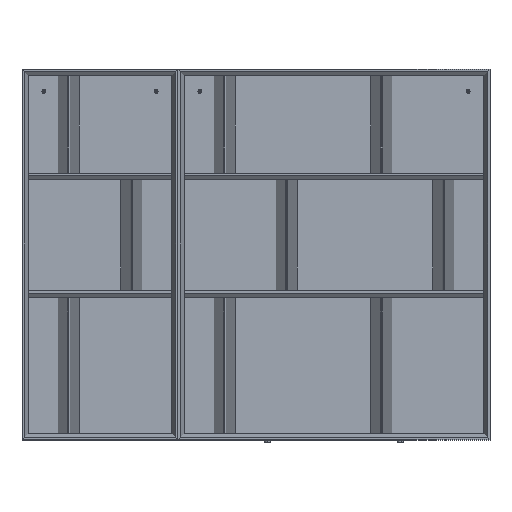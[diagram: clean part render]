
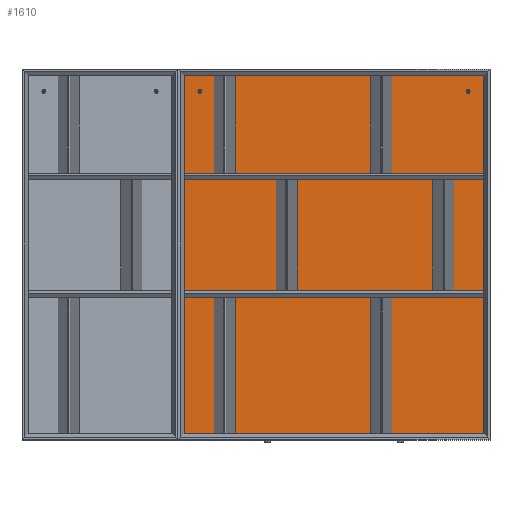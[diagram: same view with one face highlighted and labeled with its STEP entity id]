
A CAD part, top view. The second image highlights one B-rep face of the part: STEP entity #1610.
In plain terms, the highlighted planar face has unit normal (0, 0, 1).
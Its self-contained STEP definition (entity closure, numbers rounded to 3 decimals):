
#283 = LINE ( 'NONE', #2585, #4656 ) ;
#1060 = CARTESIAN_POINT ( 'NONE',  ( 1302.107, 16., -161. ) ) ;
#1182 = ORIENTED_EDGE ( 'NONE', *, *, #9552, .T. ) ;
#1233 = VERTEX_POINT ( 'NONE', #12076 ) ;
#1282 = CARTESIAN_POINT ( 'NONE',  ( 339., 894., -161. ) ) ;
#1532 = LINE ( 'NONE', #3897, #3592 ) ;
#1605 = ORIENTED_EDGE ( 'NONE', *, *, #9412, .F. ) ;
#1610 = ADVANCED_FACE ( 'NONE', ( #11697, #13828, #11774 ), #3686, .F. ) ;
#1723 = EDGE_CURVE ( 'NONE', #7999, #13384, #3549, .T. ) ;
#1754 = VECTOR ( 'NONE', #11072, 1000. ) ;
#1840 = DIRECTION ( 'NONE',  ( 1., 0., 0. ) ) ;
#2565 = CARTESIAN_POINT ( 'NONE',  ( -384., 16., -161. ) ) ;
#2585 = CARTESIAN_POINT ( 'NONE',  ( -384., 934., -161. ) ) ;
#2789 = DIRECTION ( 'NONE',  ( -1., 0., 0. ) ) ;
#2970 = CARTESIAN_POINT ( 'NONE',  ( 344., 894., -161. ) ) ;
#3013 = VERTEX_POINT ( 'NONE', #4748 ) ;
#3549 = CIRCLE ( 'NONE', #6408, 5. ) ;
#3592 = VECTOR ( 'NONE', #2789, 1000. ) ;
#3686 = PLANE ( 'NONE',  #9960 ) ;
#3741 = EDGE_LOOP ( 'NONE', ( #1605, #6006 ) ) ;
#3748 = ORIENTED_EDGE ( 'NONE', *, *, #11490, .F. ) ;
#3763 = CARTESIAN_POINT ( 'NONE',  ( 1302.107, 934., -161. ) ) ;
#3897 = CARTESIAN_POINT ( 'NONE',  ( 1302.107, 934., -161. ) ) ;
#4001 = DIRECTION ( 'NONE',  ( 1., 0., 0. ) ) ;
#4058 = CARTESIAN_POINT ( 'NONE',  ( 384., 934., -161. ) ) ;
#4212 = DIRECTION ( 'NONE',  ( 0., 1., 0. ) ) ;
#4417 = CIRCLE ( 'NONE', #12696, 5. ) ;
#4436 = VERTEX_POINT ( 'NONE', #8491 ) ;
#4656 = VECTOR ( 'NONE', #9121, 1000. ) ;
#4748 = CARTESIAN_POINT ( 'NONE',  ( 349., 894., -161. ) ) ;
#5273 = DIRECTION ( 'NONE',  ( 0., 0., 1. ) ) ;
#5352 = CARTESIAN_POINT ( 'NONE',  ( 344., 894., -161. ) ) ;
#5550 = VERTEX_POINT ( 'NONE', #2565 ) ;
#5944 = ORIENTED_EDGE ( 'NONE', *, *, #11769, .T. ) ;
#6006 = ORIENTED_EDGE ( 'NONE', *, *, #9236, .F. ) ;
#6408 = AXIS2_PLACEMENT_3D ( 'NONE', #6431, #8877, #1840 ) ;
#6431 = CARTESIAN_POINT ( 'NONE',  ( -344., 894., -161. ) ) ;
#6554 = LINE ( 'NONE', #1060, #1754 ) ;
#7043 = EDGE_CURVE ( 'NONE', #13384, #7999, #10761, .T. ) ;
#7369 = EDGE_LOOP ( 'NONE', ( #13411, #12230 ) ) ;
#7570 = DIRECTION ( 'NONE',  ( 1., 0., 0. ) ) ;
#7999 = VERTEX_POINT ( 'NONE', #8389 ) ;
#8297 = DIRECTION ( 'NONE',  ( -1., 0., 0. ) ) ;
#8318 = DIRECTION ( 'NONE',  ( 0., 0., 1. ) ) ;
#8389 = CARTESIAN_POINT ( 'NONE',  ( -349., 894., -161. ) ) ;
#8491 = CARTESIAN_POINT ( 'NONE',  ( -384., 934., -161. ) ) ;
#8646 = CARTESIAN_POINT ( 'NONE',  ( -344., 894., -161. ) ) ;
#8877 = DIRECTION ( 'NONE',  ( 0., 0., 1. ) ) ;
#8930 = AXIS2_PLACEMENT_3D ( 'NONE', #2970, #8318, #4001 ) ;
#9121 = DIRECTION ( 'NONE',  ( 0., -1., 0. ) ) ;
#9123 = CARTESIAN_POINT ( 'NONE',  ( -339., 894., -161. ) ) ;
#9236 = EDGE_CURVE ( 'NONE', #11116, #3013, #10578, .T. ) ;
#9412 = EDGE_CURVE ( 'NONE', #3013, #11116, #4417, .T. ) ;
#9552 = EDGE_CURVE ( 'NONE', #4436, #5550, #283, .T. ) ;
#9553 = DIRECTION ( 'NONE',  ( 0., 0., -1. ) ) ;
#9712 = LINE ( 'NONE', #4058, #11222 ) ;
#9960 = AXIS2_PLACEMENT_3D ( 'NONE', #3763, #9553, #8297 ) ;
#9981 = CARTESIAN_POINT ( 'NONE',  ( 384., 16., -161. ) ) ;
#10184 = EDGE_CURVE ( 'NONE', #1233, #4436, #1532, .T. ) ;
#10578 = CIRCLE ( 'NONE', #8930, 5. ) ;
#10761 = CIRCLE ( 'NONE', #11937, 5. ) ;
#10954 = VERTEX_POINT ( 'NONE', #9981 ) ;
#11072 = DIRECTION ( 'NONE',  ( -1., 0., 0. ) ) ;
#11116 = VERTEX_POINT ( 'NONE', #1282 ) ;
#11150 = EDGE_LOOP ( 'NONE', ( #13513, #1182, #3748, #5944 ) ) ;
#11222 = VECTOR ( 'NONE', #4212, 1000. ) ;
#11490 = EDGE_CURVE ( 'NONE', #10954, #5550, #6554, .T. ) ;
#11697 = FACE_OUTER_BOUND ( 'NONE', #11150, .T. ) ;
#11769 = EDGE_CURVE ( 'NONE', #10954, #1233, #9712, .T. ) ;
#11774 = FACE_BOUND ( 'NONE', #7369, .T. ) ;
#11937 = AXIS2_PLACEMENT_3D ( 'NONE', #8646, #12045, #14329 ) ;
#12045 = DIRECTION ( 'NONE',  ( 0., 0., 1. ) ) ;
#12076 = CARTESIAN_POINT ( 'NONE',  ( 384., 934., -161. ) ) ;
#12230 = ORIENTED_EDGE ( 'NONE', *, *, #1723, .F. ) ;
#12696 = AXIS2_PLACEMENT_3D ( 'NONE', #5352, #5273, #7570 ) ;
#13384 = VERTEX_POINT ( 'NONE', #9123 ) ;
#13411 = ORIENTED_EDGE ( 'NONE', *, *, #7043, .F. ) ;
#13513 = ORIENTED_EDGE ( 'NONE', *, *, #10184, .T. ) ;
#13828 = FACE_BOUND ( 'NONE', #3741, .T. ) ;
#14329 = DIRECTION ( 'NONE',  ( 1., 0., 0. ) ) ;
